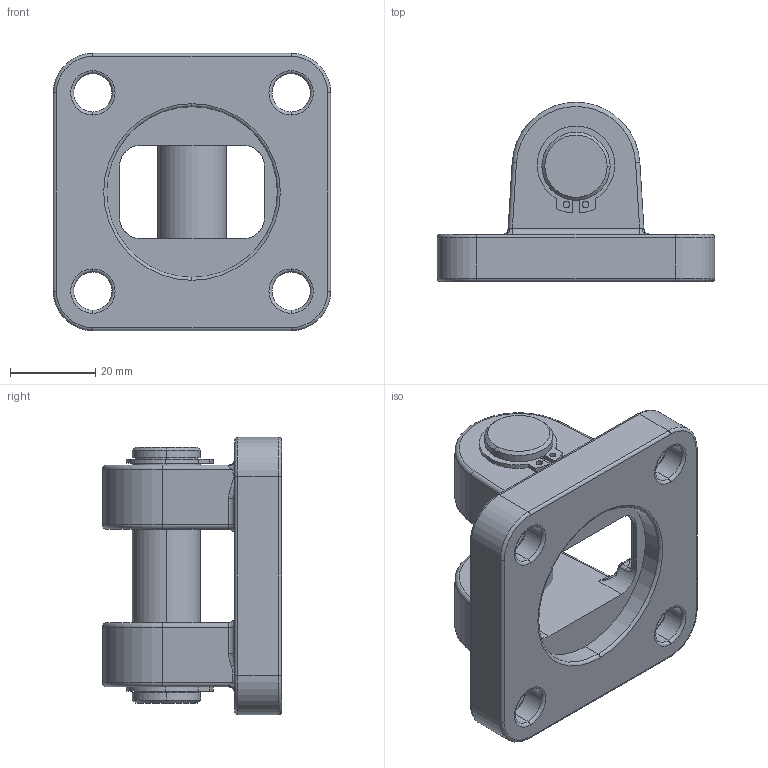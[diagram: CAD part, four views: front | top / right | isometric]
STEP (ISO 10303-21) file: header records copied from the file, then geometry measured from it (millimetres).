
FILE_DESCRIPTION (( 'STEP AP203' ), '1' );
FILE_NAME ('蚾饜极-ISO-CN 50.STEP', '2022-06-23T10:26:15', ( 'Windows' ), ( 'Microsoft' ), 'SwSTEP 2.0', 'SolidWorks 2018', '' );
FILE_SCHEMA (( 'CONFIG_CONTROL_DESIGN' ));
Length unit declared in the file: millimetre
Products named in the file (4): C-16; ISO-CN 50-MP; ISO-CN 50-种赽; 蚾饜极-ISO-CN 50
Assembly tree (4 placements, depth 2):
  蚾饜极-ISO-CN 50
    C-16  x2
    ISO-CN 50-种赽
    ISO-CN 50-MP
Bounding box: 65 x 42 x 65 mm (x, y, z)
Volume: 67515 mm3; surface area: 20301.8 mm2
Topology: 4 solids, 4 shells, 416 faces, 1026 edges, 627 vertices
Faces by surface type: bspline 123, cylinder 120, plane 103, torus 54, cone 12, sphere 4
Entity records: 17588 total; most frequent: CARTESIAN_POINT 8498, ORIENTED_EDGE 1936, DIRECTION 1618, EDGE_CURVE 968, AXIS2_PLACEMENT_3D 614, VERTEX_POINT 595, EDGE_LOOP 431, FACE_OUTER_BOUND 398
